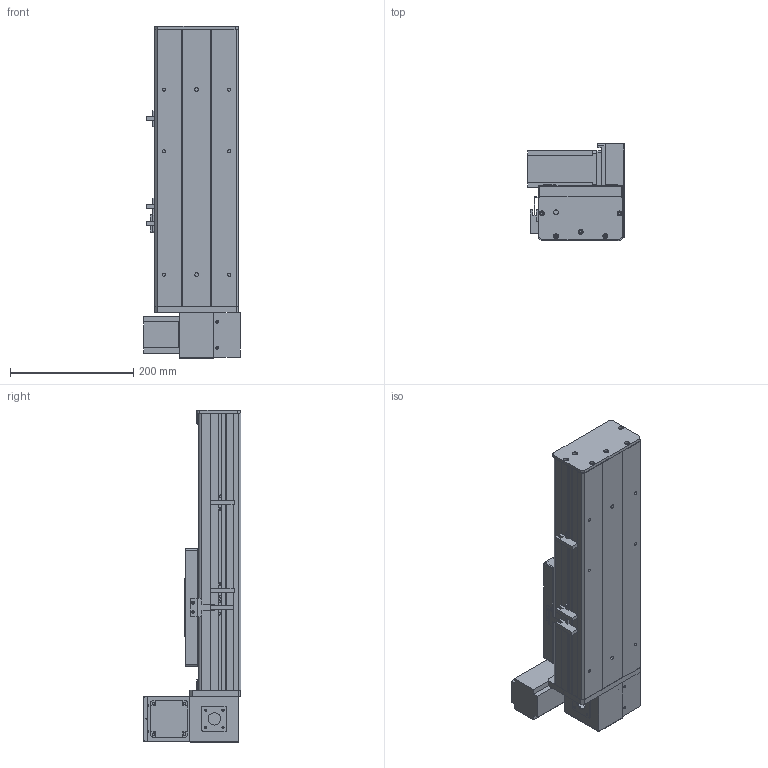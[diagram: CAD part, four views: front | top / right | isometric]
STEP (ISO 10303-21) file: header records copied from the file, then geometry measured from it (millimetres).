
FILE_DESCRIPTION (( 'STEP AP203' ), '1' );
FILE_NAME ('Y135CB-D90-S150-UL-P400W.STEP', '2020-02-18T06:59:22', ( '微软用户' ), ( '微软中国' ), 'SwSTEP 2.0', 'SolidWorks 2017', '' );
FILE_SCHEMA (( 'CONFIG_CONTROL_DESIGN' ));
Length unit declared in the file: millimetre
Products named in the file (18): Y135C-陔俋离換覜結え-; 0B-埴倛裔啣; 5C--俋欶; 0B-源倛裔啣; C-雄赽釱--; 0B-萇儂楊擘啣; Y10B-耜蚾蟀諉啣----; san松下电机400不带刹车----; 00B-俋欶BM--; 5CB --掛极耜裔啣-; Y10B--々湍喘謫眊--666; C-詩湍揤踡え-陔; Y135CB-耜裔; Y135CB-D90-S150-UL-P400W; 135CB--詩湍-CE; 135CB---遴掛极.-; Y100-135俋离換覜ん--; 35CB---喘謫眊楊擘啣
Assembly tree (21 placements, depth 2):
  Y135CB-D90-S150-UL-P400W
    Y135CB-耜裔
    135CB---遴掛极.-
    35CB---喘謫眊楊擘啣
    0B-埴倛裔啣
    0B-源倛裔啣
    0B-萇儂楊擘啣
    san松下电机400不带刹车----
    5CB --掛极耜裔啣-  x2
    C-詩湍揤踡え-陔  x2
    135CB--詩湍-CE
    Y100-135俋离換覜ん--  x3
    Y135C-陔俋离換覜結え-
    5C--俋欶
    C-雄赽釱--
    Y10B-耜蚾蟀諉啣----
    00B-俋欶BM--
    Y10B--々湍喘謫眊--666
Bounding box: 157 x 158.7 x 538 mm (x, y, z)
Volume: 2179021.2 mm3; surface area: 830102 mm2
Topology: 21 solids, 21 shells, 929 faces, 2455 edges, 1626 vertices
Faces by surface type: cylinder 457, plane 456, cone 16
Entity records: 28541 total; most frequent: DIRECTION 4739, CARTESIAN_POINT 4636, ORIENTED_EDGE 4386, EDGE_CURVE 2193, AXIS2_PLACEMENT_3D 1721, VERTEX_POINT 1454, VECTOR 1297, LINE 1297
